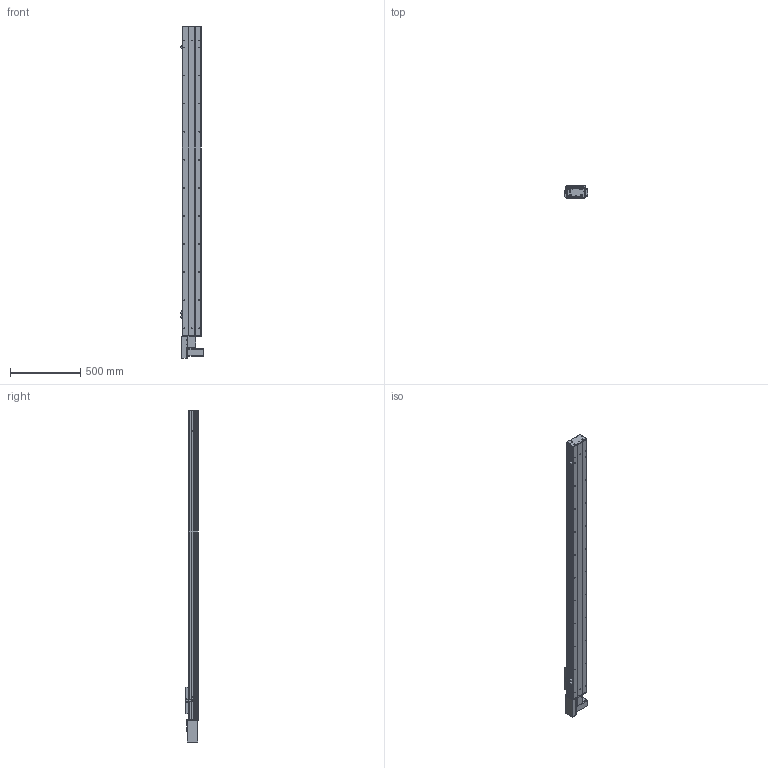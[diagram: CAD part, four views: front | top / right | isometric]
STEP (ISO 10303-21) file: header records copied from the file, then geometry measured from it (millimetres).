
FILE_DESCRIPTION (( 'STEP AP203' ), '1' );
FILE_NAME ('Y135CB-D90-S1900-BR-P400W.STEP', '2020-02-18T02:52:36', ( '微软用户' ), ( '微软中国' ), 'SwSTEP 2.0', 'SolidWorks 2017', '' );
FILE_SCHEMA (( 'CONFIG_CONTROL_DESIGN' ));
Length unit declared in the file: millimetre
Products named in the file (18): C-雄赽釱--; 0B-萇儂楊擘啣; Y10B--々湍喘謫眊--666; san松下电机400不带刹车----; Y135CB-耜裔; Y135CB-D90-S1900-BR-P400W; 5CB --掛极耜裔啣-; 135CB---遴掛极.-; C-詩湍揤踡え-陔; 35CB---喘謫眊楊擘啣; 135CB--詩湍-CE; Y10B-耜蚾蟀諉啣----; Y100-135俋离換覜ん--; Y俋欶BR----; Y135C-陔俋离換覜結え-; 0B-埴倛裔啣; 5C--俋欶; 0B-源倛裔啣
Assembly tree (21 placements, depth 2):
  Y135CB-D90-S1900-BR-P400W
    Y135CB-耜裔
    135CB---遴掛极.-
    35CB---喘謫眊楊擘啣
    Y10B-耜蚾蟀諉啣----
    Y俋欶BR----
    0B-埴倛裔啣
    0B-源倛裔啣
    0B-萇儂楊擘啣
    san松下电机400不带刹车----
    5CB --掛极耜裔啣-  x2
    C-詩湍揤踡え-陔  x2
    135CB--詩湍-CE
    Y100-135俋离換覜ん--  x3
    Y135C-陔俋离換覜結え-
    5C--俋欶
    C-雄赽釱--
    Y10B--々湍喘謫眊--666
Bounding box: 167.5 x 91 x 2364.5 mm (x, y, z)
Volume: 6724408.6 mm3; surface area: 2655647.3 mm2
Topology: 21 solids, 21 shells, 965 faces, 2617 edges, 1734 vertices
Faces by surface type: cylinder 491, plane 458, cone 16
Entity records: 30351 total; most frequent: DIRECTION 5041, CARTESIAN_POINT 5032, ORIENTED_EDGE 4710, EDGE_CURVE 2355, AXIS2_PLACEMENT_3D 1843, VERTEX_POINT 1562, VECTOR 1355, LINE 1355
